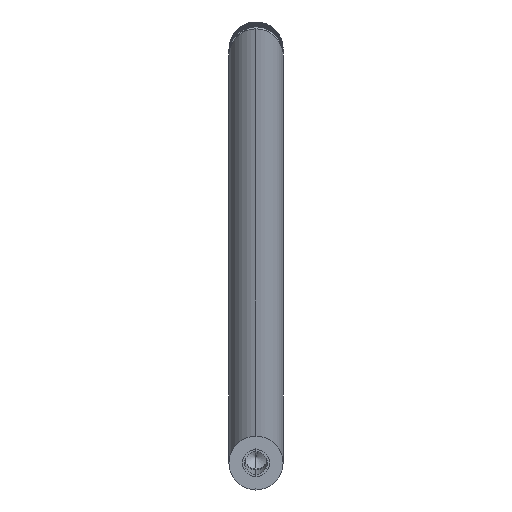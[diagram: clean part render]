
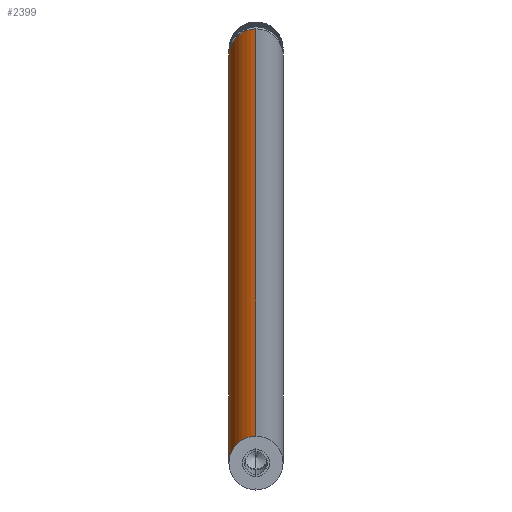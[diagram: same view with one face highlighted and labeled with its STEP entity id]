
A CAD part, left-side view. The second image highlights one B-rep face of the part: STEP entity #2399.
In plain terms, the highlighted cylindrical face has radius 3 mm (diameter 6 mm), a partial arc.
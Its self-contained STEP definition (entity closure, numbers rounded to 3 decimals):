
#1=CARTESIAN_POINT('',(606.816,0.,-140.675));
#2=DIRECTION('',(-0.997,0.,-0.077));
#3=DIRECTION('',(-0.077,0.,0.997));
#4=AXIS2_PLACEMENT_3D('',#1,#2,#3);
#455=DIRECTION('',(-0.997,0.,-0.077));
#456=VECTOR('',#455,584.866);
#457=CARTESIAN_POINT('',(1189.703,0.,
-92.505));
#458=LINE('',#457,#456);
#459=CARTESIAN_POINT('',(1189.934,0.,-95.496));
#460=DIRECTION('',(0.997,0.,0.077));
#461=DIRECTION('',(0.077,0.,-0.997));
#462=AXIS2_PLACEMENT_3D('',#459,#460,#461);
#1275=DIRECTION('',(-0.997,0.,-0.077));
#1276=VECTOR('',#1275,584.866);
#1277=CARTESIAN_POINT('',(1190.166,0.,
-98.487));
#1278=LINE('',#1277,#1276);
#2167=CARTESIAN_POINT('',(606.584,0.,-137.684));
#2168=CARTESIAN_POINT('',(607.048,0.,-143.666));
#2169=VERTEX_POINT('',#2167);
#2170=VERTEX_POINT('',#2168);
#2242=CARTESIAN_POINT('',(1190.166,0.,
-98.487));
#2243=CARTESIAN_POINT('',(1189.703,0.,
-92.505));
#2244=VERTEX_POINT('',#2242);
#2245=VERTEX_POINT('',#2243);
#2385=CARTESIAN_POINT('',(1189.934,0.,-95.496));
#2386=DIRECTION('',(-0.997,0.,-0.077));
#2387=DIRECTION('',(-0.077,0.,0.997));
#2388=AXIS2_PLACEMENT_3D('',#2385,#2386,#2387);
#2389=CYLINDRICAL_SURFACE('',#2388,3.);
#2391=ORIENTED_EDGE('',*,*,#2390,.T.);
#2392=ORIENTED_EDGE('',*,*,#2260,.T.);
#2394=ORIENTED_EDGE('',*,*,#2393,.F.);
#2396=ORIENTED_EDGE('',*,*,#2395,.T.);
#2397=EDGE_LOOP('',(#2391,#2392,#2394,#2396));
#2398=FACE_OUTER_BOUND('',#2397,.F.);
#2399=ADVANCED_FACE('',(#2398),#2389,.T.);
#5=CIRCLE('',#4,3.);
#463=CIRCLE('',#462,3.);
#2260=EDGE_CURVE('',#2169,#2170,#5,.T.);
#2390=EDGE_CURVE('',#2245,#2169,#458,.T.);
#2393=EDGE_CURVE('',#2244,#2170,#1278,.T.);
#2395=EDGE_CURVE('',#2244,#2245,#463,.T.);
